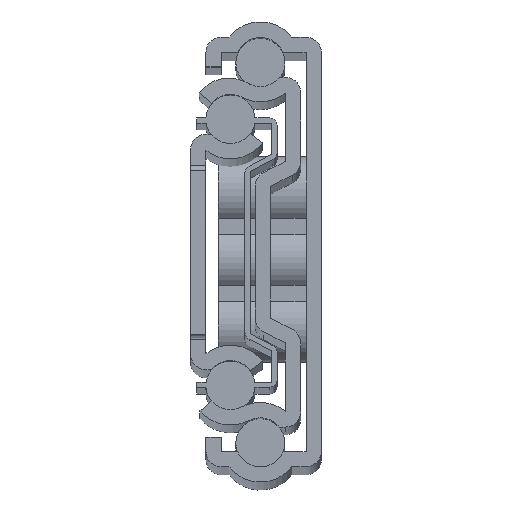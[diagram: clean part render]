
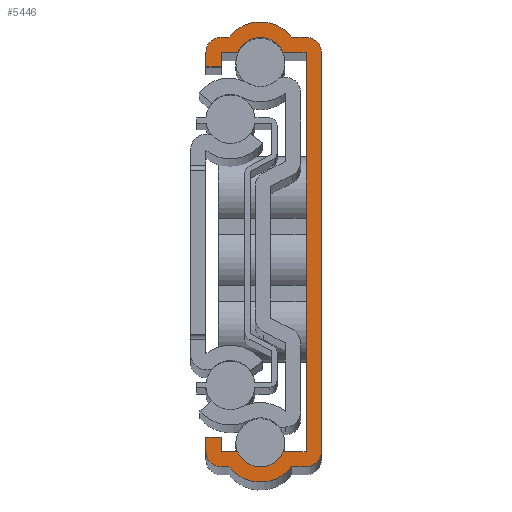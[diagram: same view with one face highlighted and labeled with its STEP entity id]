
A CAD part, top view. The second image highlights one B-rep face of the part: STEP entity #5446.
In plain terms, the highlighted planar face has unit normal (0, 0, 1).
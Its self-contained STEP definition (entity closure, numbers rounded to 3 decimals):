
#213=CIRCLE('',#5818,2.381);
#214=CIRCLE('',#5826,1.488);
#215=CIRCLE('',#5829,3.869);
#216=CIRCLE('',#5832,1.488);
#217=CIRCLE('',#5837,3.869);
#218=CIRCLE('',#5840,1.488);
#219=CIRCLE('',#5844,2.381);
#220=CIRCLE('',#5849,1.488);
#587=FACE_OUTER_BOUND('',#914,.T.);
#914=EDGE_LOOP('',(#4334,#4335,#4336,#4337,#4338,#4339,#4340,#4341,#4342,
#4343,#4344,#4345,#4346,#4347,#4348,#4349,#4350,#4351,#4352,#4353,#4354,
#4355,#4356,#4357));
#1336=LINE('',#8404,#1898);
#1340=LINE('',#8413,#1902);
#1344=LINE('',#8421,#1906);
#1347=LINE('',#8427,#1909);
#1350=LINE('',#8432,#1912);
#1351=LINE('',#8435,#1913);
#1356=LINE('',#8445,#1918);
#1359=LINE('',#8453,#1921);
#1362=LINE('',#8461,#1924);
#1363=LINE('',#8464,#1925);
#1366=LINE('',#8470,#1928);
#1369=LINE('',#8478,#1931);
#1371=LINE('',#8483,#1933);
#1372=LINE('',#8486,#1934);
#1375=LINE('',#8494,#1937);
#1378=LINE('',#8498,#1940);
#1898=VECTOR('',#6795,2.23);
#1902=VECTOR('',#6805,1.59);
#1906=VECTOR('',#6813,1.491);
#1909=VECTOR('',#6818,1.488);
#1912=VECTOR('',#6823,1.389);
#1913=VECTOR('',#6826,1.389);
#1918=VECTOR('',#6837,0.748);
#1921=VECTOR('',#6846,1.387);
#1924=VECTOR('',#6855,38.693);
#1925=VECTOR('',#6858,38.693);
#1928=VECTOR('',#6863,0.748);
#1931=VECTOR('',#6872,1.387);
#1933=VECTOR('',#6880,1.408);
#1934=VECTOR('',#6883,2.23);
#1937=VECTOR('',#6892,1.593);
#1940=VECTOR('',#6897,1.37);
#2458=VERTEX_POINT('',#8401);
#2459=VERTEX_POINT('',#8403);
#2460=VERTEX_POINT('',#8407);
#2461=VERTEX_POINT('',#8411);
#2462=VERTEX_POINT('',#8418);
#2463=VERTEX_POINT('',#8420);
#2464=VERTEX_POINT('',#8424);
#2465=VERTEX_POINT('',#8426);
#2466=VERTEX_POINT('',#8430);
#2467=VERTEX_POINT('',#8434);
#2468=VERTEX_POINT('',#8439);
#2469=VERTEX_POINT('',#8443);
#2470=VERTEX_POINT('',#8447);
#2471=VERTEX_POINT('',#8451);
#2472=VERTEX_POINT('',#8455);
#2473=VERTEX_POINT('',#8459);
#2474=VERTEX_POINT('',#8463);
#2475=VERTEX_POINT('',#8467);
#2476=VERTEX_POINT('',#8469);
#2477=VERTEX_POINT('',#8473);
#2478=VERTEX_POINT('',#8477);
#2479=VERTEX_POINT('',#8485);
#2480=VERTEX_POINT('',#8489);
#2481=VERTEX_POINT('',#8493);
#3102=EDGE_CURVE('',#2459,#2458,#1336,.T.);
#3105=EDGE_CURVE('',#2458,#2460,#213,.T.);
#3107=EDGE_CURVE('',#2460,#2461,#1340,.T.);
#3111=EDGE_CURVE('',#2463,#2462,#1344,.T.);
#3114=EDGE_CURVE('',#2465,#2464,#1347,.T.);
#3117=EDGE_CURVE('',#2462,#2466,#1350,.T.);
#3118=EDGE_CURVE('',#2467,#2465,#1351,.T.);
#3122=EDGE_CURVE('',#2466,#2468,#214,.T.);
#3124=EDGE_CURVE('',#2468,#2469,#1356,.T.);
#3126=EDGE_CURVE('',#2469,#2470,#215,.T.);
#3128=EDGE_CURVE('',#2470,#2471,#1359,.T.);
#3130=EDGE_CURVE('',#2471,#2472,#216,.T.);
#3132=EDGE_CURVE('',#2472,#2473,#1362,.T.);
#3133=EDGE_CURVE('',#2474,#2459,#1363,.T.);
#3136=EDGE_CURVE('',#2476,#2475,#1366,.T.);
#3138=EDGE_CURVE('',#2477,#2476,#217,.T.);
#3140=EDGE_CURVE('',#2478,#2477,#1369,.T.);
#3142=EDGE_CURVE('',#2473,#2478,#218,.T.);
#3143=EDGE_CURVE('',#2461,#2463,#1371,.T.);
#3144=EDGE_CURVE('',#2479,#2474,#1372,.T.);
#3146=EDGE_CURVE('',#2480,#2479,#219,.T.);
#3148=EDGE_CURVE('',#2481,#2480,#1375,.T.);
#3151=EDGE_CURVE('',#2464,#2481,#1378,.T.);
#3152=EDGE_CURVE('',#2475,#2467,#220,.T.);
#4334=ORIENTED_EDGE('',*,*,#3152,.T.);
#4335=ORIENTED_EDGE('',*,*,#3118,.T.);
#4336=ORIENTED_EDGE('',*,*,#3114,.T.);
#4337=ORIENTED_EDGE('',*,*,#3151,.T.);
#4338=ORIENTED_EDGE('',*,*,#3148,.T.);
#4339=ORIENTED_EDGE('',*,*,#3146,.T.);
#4340=ORIENTED_EDGE('',*,*,#3144,.T.);
#4341=ORIENTED_EDGE('',*,*,#3133,.T.);
#4342=ORIENTED_EDGE('',*,*,#3102,.T.);
#4343=ORIENTED_EDGE('',*,*,#3105,.T.);
#4344=ORIENTED_EDGE('',*,*,#3107,.T.);
#4345=ORIENTED_EDGE('',*,*,#3143,.T.);
#4346=ORIENTED_EDGE('',*,*,#3111,.T.);
#4347=ORIENTED_EDGE('',*,*,#3117,.T.);
#4348=ORIENTED_EDGE('',*,*,#3122,.T.);
#4349=ORIENTED_EDGE('',*,*,#3124,.T.);
#4350=ORIENTED_EDGE('',*,*,#3126,.T.);
#4351=ORIENTED_EDGE('',*,*,#3128,.T.);
#4352=ORIENTED_EDGE('',*,*,#3130,.T.);
#4353=ORIENTED_EDGE('',*,*,#3132,.T.);
#4354=ORIENTED_EDGE('',*,*,#3142,.T.);
#4355=ORIENTED_EDGE('',*,*,#3140,.T.);
#4356=ORIENTED_EDGE('',*,*,#3138,.T.);
#4357=ORIENTED_EDGE('',*,*,#3136,.T.);
#5223=PLANE('',#5850);
#5446=ADVANCED_FACE('',(#587),#5223,.T.);
#5818=AXIS2_PLACEMENT_3D('',#8409,#6800,#6801);
#5826=AXIS2_PLACEMENT_3D('',#8441,#6832,#6833);
#5829=AXIS2_PLACEMENT_3D('',#8449,#6841,#6842);
#5832=AXIS2_PLACEMENT_3D('',#8457,#6850,#6851);
#5837=AXIS2_PLACEMENT_3D('',#8474,#6867,#6868);
#5840=AXIS2_PLACEMENT_3D('',#8481,#6876,#6877);
#5844=AXIS2_PLACEMENT_3D('',#8490,#6887,#6888);
#5849=AXIS2_PLACEMENT_3D('',#8501,#6902,#6903);
#5850=AXIS2_PLACEMENT_3D('',#8502,#6904,#6905);
#6795=DIRECTION('',(-1.,0.,0.));
#6800=DIRECTION('center_axis',(0.,0.,-1.));
#6801=DIRECTION('ref_axis',(-1.,0.,0.));
#6805=DIRECTION('',(-1.,0.,0.));
#6813=DIRECTION('',(-1.,0.,0.));
#6818=DIRECTION('',(1.,0.,0.));
#6823=DIRECTION('',(0.,-1.,0.));
#6826=DIRECTION('',(0.,-1.,0.));
#6832=DIRECTION('center_axis',(0.,0.,1.));
#6833=DIRECTION('ref_axis',(-1.,0.,0.));
#6837=DIRECTION('',(1.,0.,0.));
#6841=DIRECTION('center_axis',(0.,0.,1.));
#6842=DIRECTION('ref_axis',(-0.788,-0.615,0.));
#6846=DIRECTION('',(1.,0.,0.));
#6850=DIRECTION('center_axis',(0.,0.,1.));
#6851=DIRECTION('ref_axis',(0.,-1.,0.));
#6855=DIRECTION('',(0.,1.,0.));
#6858=DIRECTION('',(0.,-1.,0.));
#6863=DIRECTION('',(-1.,0.,0.));
#6867=DIRECTION('center_axis',(0.,0.,1.));
#6868=DIRECTION('ref_axis',(0.788,0.615,0.));
#6872=DIRECTION('',(-1.,0.,0.));
#6876=DIRECTION('center_axis',(0.,0.,1.));
#6877=DIRECTION('ref_axis',(1.,0.,0.));
#6880=DIRECTION('',(0.,1.,0.));
#6883=DIRECTION('',(1.,0.,0.));
#6887=DIRECTION('center_axis',(0.,0.,-1.));
#6888=DIRECTION('ref_axis',(-1.,0.,0.));
#6892=DIRECTION('',(1.,0.,0.));
#6897=DIRECTION('',(0.,1.,0.));
#6902=DIRECTION('center_axis',(0.,0.,1.));
#6903=DIRECTION('ref_axis',(0.,1.,0.));
#6904=DIRECTION('center_axis',(0.,0.,1.));
#6905=DIRECTION('ref_axis',(1.,0.,0.));
#8401=CARTESIAN_POINT('',(8.984,-19.365,225.));
#8403=CARTESIAN_POINT('',(11.213,-19.365,225.));
#8404=CARTESIAN_POINT('',(11.213,-19.365,225.));
#8407=CARTESIAN_POINT('',(4.569,-19.365,225.));
#8409=CARTESIAN_POINT('Origin',(6.776,-18.472,225.));
#8411=CARTESIAN_POINT('',(2.979,-19.365,225.));
#8413=CARTESIAN_POINT('',(4.569,-19.365,225.));
#8418=CARTESIAN_POINT('',(1.488,-17.957,225.));
#8420=CARTESIAN_POINT('',(2.979,-17.957,225.));
#8421=CARTESIAN_POINT('',(2.979,-17.957,225.));
#8424=CARTESIAN_POINT('',(2.976,17.957,225.));
#8426=CARTESIAN_POINT('',(1.488,17.957,225.));
#8427=CARTESIAN_POINT('',(1.488,17.957,225.));
#8430=CARTESIAN_POINT('',(1.488,-19.346,225.));
#8432=CARTESIAN_POINT('',(1.488,-17.957,225.));
#8434=CARTESIAN_POINT('',(1.488,19.346,225.));
#8435=CARTESIAN_POINT('',(1.488,19.346,225.));
#8439=CARTESIAN_POINT('',(2.976,-20.835,225.));
#8441=CARTESIAN_POINT('Origin',(2.976,-19.346,225.));
#8443=CARTESIAN_POINT('',(3.724,-20.835,225.));
#8445=CARTESIAN_POINT('',(2.976,-20.835,225.));
#8447=CARTESIAN_POINT('',(9.823,-20.835,225.));
#8449=CARTESIAN_POINT('Origin',(6.774,-18.454,225.));
#8451=CARTESIAN_POINT('',(11.211,-20.835,225.));
#8453=CARTESIAN_POINT('',(9.823,-20.835,225.));
#8455=CARTESIAN_POINT('',(12.699,-19.346,225.));
#8457=CARTESIAN_POINT('Origin',(11.211,-19.346,225.));
#8459=CARTESIAN_POINT('',(12.699,19.346,225.));
#8461=CARTESIAN_POINT('',(12.699,-19.346,225.));
#8463=CARTESIAN_POINT('',(11.213,19.328,225.));
#8464=CARTESIAN_POINT('',(11.213,19.328,225.));
#8467=CARTESIAN_POINT('',(2.976,20.835,225.));
#8469=CARTESIAN_POINT('',(3.724,20.835,225.));
#8470=CARTESIAN_POINT('',(3.724,20.835,225.));
#8473=CARTESIAN_POINT('',(9.823,20.835,225.));
#8474=CARTESIAN_POINT('Origin',(6.774,18.454,225.));
#8477=CARTESIAN_POINT('',(11.211,20.835,225.));
#8478=CARTESIAN_POINT('',(11.211,20.835,225.));
#8481=CARTESIAN_POINT('Origin',(11.211,19.346,225.));
#8483=CARTESIAN_POINT('',(2.979,-19.365,225.));
#8485=CARTESIAN_POINT('',(8.984,19.328,225.));
#8486=CARTESIAN_POINT('',(8.984,19.328,225.));
#8489=CARTESIAN_POINT('',(4.569,19.328,225.));
#8490=CARTESIAN_POINT('Origin',(6.776,18.435,225.));
#8493=CARTESIAN_POINT('',(2.976,19.328,225.));
#8494=CARTESIAN_POINT('',(2.976,19.328,225.));
#8498=CARTESIAN_POINT('',(2.976,17.957,225.));
#8501=CARTESIAN_POINT('Origin',(2.976,19.346,225.));
#8502=CARTESIAN_POINT('Origin',(9.802,-0.014,225.));
